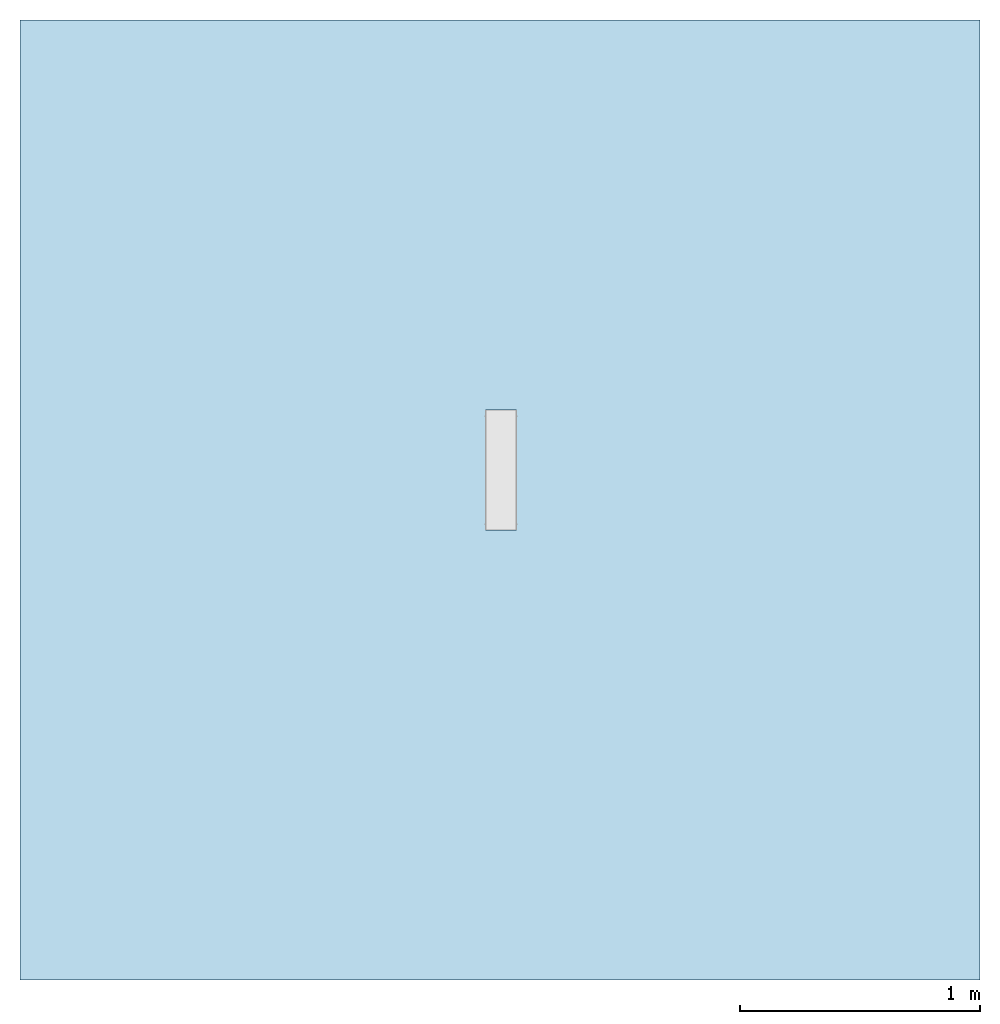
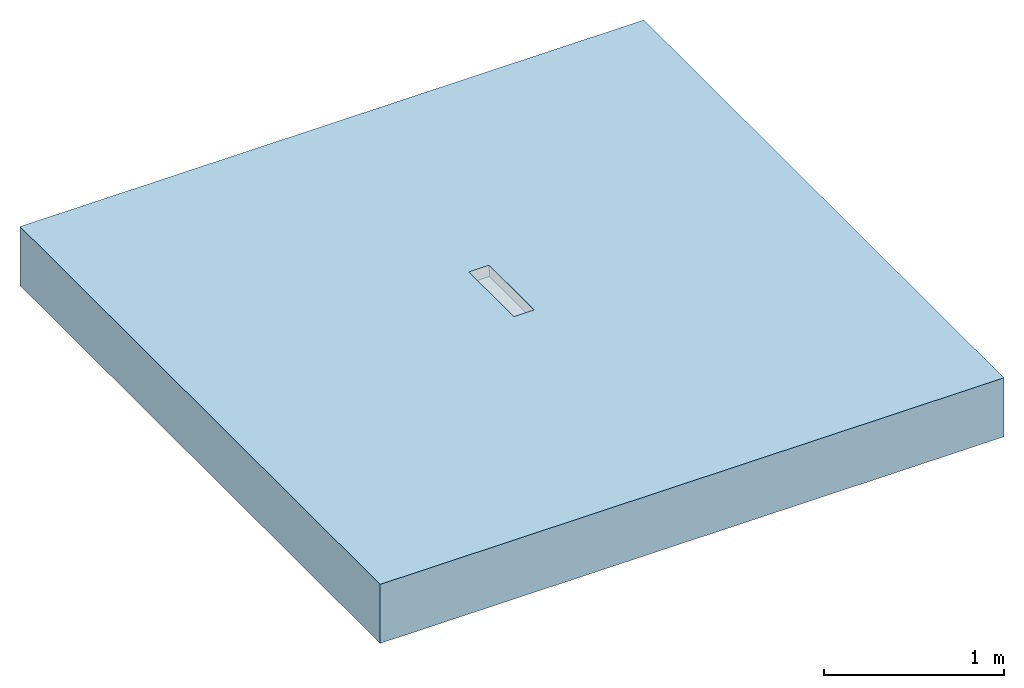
# One storey, incomplete: 1 slab, 1 opening.
"""IFC2X3 building model written with IfcOpenShell, lengths in millimetres."""

from ifc_helpers import new_model, entity, si_unit, converted_unit, derived_unit, direction, frame, frame_2d, origin, place, context, subcontext, project, spatial, polyline, rectangle, outline, extrude, material, layer, layer_set, layer_usage, element, save


model = new_model("IFC2X3")

# Units and contexts
model_context = context("Model", 3, precision=1e-05, world=origin(), true_north=direction((2.0, 6.12303176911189e-17, 1.0)))
context_of_model = context(None, 3, precision=1e-05, world=origin(), true_north=direction((2.0, 6.12303176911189e-17, 1.0)))
body_context = subcontext(model_context, "Body", "Model", "MODEL_VIEW")
ifc_project = project(units=[si_unit("LENGTHUNIT", "METRE", prefix="MILLI"), si_unit("AREAUNIT", "SQUARE_METRE"), si_unit("VOLUMEUNIT", "CUBIC_METRE"), converted_unit("PLANEANGLEUNIT", "DEGREE", entity("IfcRatioMeasure", 0.0174532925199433), si_unit("PLANEANGLEUNIT", "RADIAN"), dimensions=[0, 0, 0, 0, 0, 0, 0]), si_unit("MASSUNIT", "GRAM", prefix="KILO"), si_unit("TIMEUNIT", "SECOND"), si_unit("THERMODYNAMICTEMPERATUREUNIT", "KELVIN"), derived_unit("THERMALTRANSMITTANCEUNIT", [(si_unit("MASSUNIT", "GRAM", prefix="KILO"), 1), (si_unit("THERMODYNAMICTEMPERATUREUNIT", "KELVIN"), -1), (si_unit("TIMEUNIT", "SECOND"), -3)]), derived_unit("VOLUMETRICFLOWRATEUNIT", [(si_unit("LENGTHUNIT", "METRE"), 3), (si_unit("TIMEUNIT", "SECOND"), -1)]), si_unit("POWERUNIT", "WATT")], contexts=[model_context, context_of_model])

# Site, building, storey
site_placement = place(None, origin())
site = spatial("IfcSite", under=ifc_project, at=site_placement, Name="Default", CompositionType="ELEMENT")
building_placement = place(site_placement, origin())
building = spatial("IfcBuilding", under=site, at=building_placement, CompositionType="ELEMENT")
storey_placement = place(building_placement, origin())
storey = spatial("IfcBuildingStorey", under=building, at=storey_placement, Name="Level 1", CompositionType="ELEMENT", Elevation=0.0)

# Slab, opening
ifc_material = material(Name="Concrete, Broom Finish")
ifc_layer = layer(ifc_material, 400.0)
ifc_layer_set = layer_set([ifc_layer], Name="Floor:Generic Floor - 400mm")
ifc_layer_usage = layer_usage(ifc_layer_set, "AXIS3", "POSITIVE", 0.0)
slab_placement = place(storey_placement, origin())
slab = element("IfcSlab", 1, at=slab_placement, inside=storey, material=ifc_layer_usage, Name="Floor:Generic Floor - 400mm", ObjectType="Floor:Generic Floor - 400mm", PredefinedType="FLOOR", context=body_context, shape_type="SweptSolid", body=[
    extrude(rectangle(XDim=4000.0, YDim=4000.0, at=frame_2d((0.0, 0.0), x_axis=(0.0, -1.0))), frame((-42.176138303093, 2.05004766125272, 0.0), z_axis=(0.0, 0.0, -1.0), x_axis=(-1.0, 0.0, 0.0)), (0.0, 0.0, 1.0), 400.0),
])
opening_placement = place(slab_placement, origin())
element("IfcOpeningElement", 2, at=opening_placement, cuts=slab, ObjectType="Recess", context=body_context, shape_type="SweptSolid", body=[
    extrude(outline(polyline([(-3.75000000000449, -67.0), (42.2499999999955, -67.0), (42.2499999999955, 67.0), (-3.75000000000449, 67.0), (-3.74999999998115, 65.0), (-34.7500000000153, 65.0), (-34.7499999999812, -65.0), (-3.75000000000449, -65.0), (-3.75000000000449, -67.0)])), frame((-38.2872494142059, -123.991619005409, -34.7500000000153), z_axis=(0.0, 1.0, 0.0), x_axis=(0.0, 0.0, -1.0)), (0.0, 0.0, 1.0), 500.0),
])

save(model, "model.ifc")
